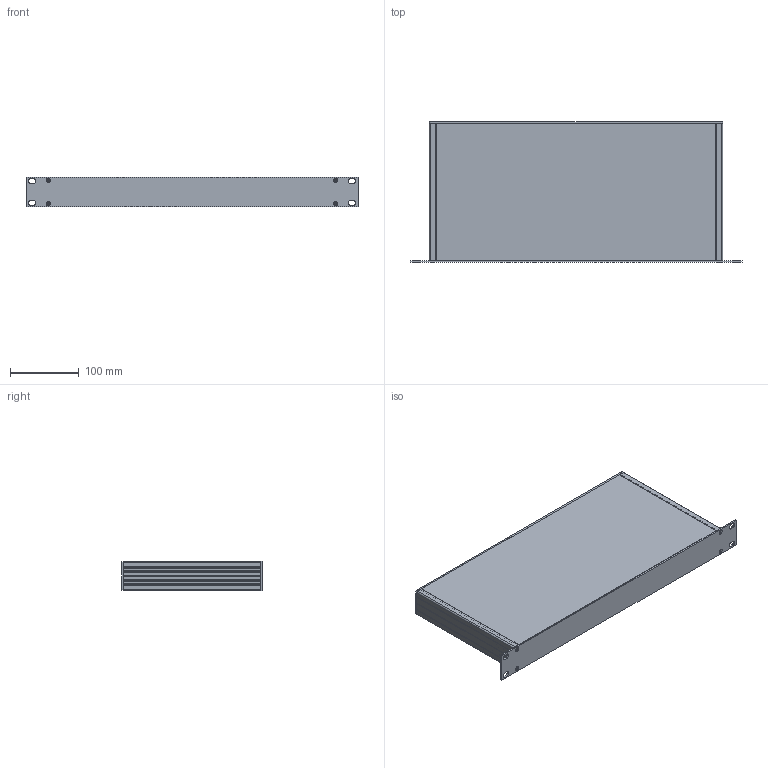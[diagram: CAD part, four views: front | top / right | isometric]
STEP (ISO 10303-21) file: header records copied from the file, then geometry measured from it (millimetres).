
FILE_DESCRIPTION(/* description */ (''),/* implementation_level */ '2;1');
FILE_NAME(/* name */ '//diskstation/Kunden/Gehäuse/Gehäuse/1HE/step/200.step',/* time_stamp */ '2022-02-17T15:26:02+01:00',/* author */ (''),/* organization */ (''),/* preprocessor_version */ 'ST-DEVELOPER v18.1',/* originating_system */ 'Autodesk Translation Framework v10.10.0.1391',/* authorisation */ '');
FILE_SCHEMA (('AUTOMOTIVE_DESIGN { 1 0 10303 214 3 1 1 }'));
Length unit declared in the file: millimetre
Products named in the file (7): 1HE Gehäuse mit Parameter (Seitenteilprofil); Frontplatte; Gehäuse; Seitenteilprofil; Rückplatte; Deckel; Bodenplatte
Assembly tree (7 placements, depth 3):
  1HE Gehäuse mit Parameter (Seitenteilprofil)
    Frontplatte
    Gehäuse
      Seitenteilprofil  x2
      Rückplatte
      Deckel
      Bodenplatte
Bounding box: 483 x 205 x 43.6 mm (x, y, z)
Volume: 573498 mm3; surface area: 489870.3 mm2
Topology: 6 solids, 6 shells, 252 faces, 712 edges, 472 vertices
Faces by surface type: plane 158, cylinder 86, cone 8
Full cylindrical faces by diameter (mm): 3 x4, 3.2 x8
Entity records: 5633 total; most frequent: CARTESIAN_POINT 956, DIRECTION 952, ORIENTED_EDGE 932, EDGE_CURVE 466, LINE 344, VECTOR 344, VERTEX_POINT 308, AXIS2_PLACEMENT_3D 304
